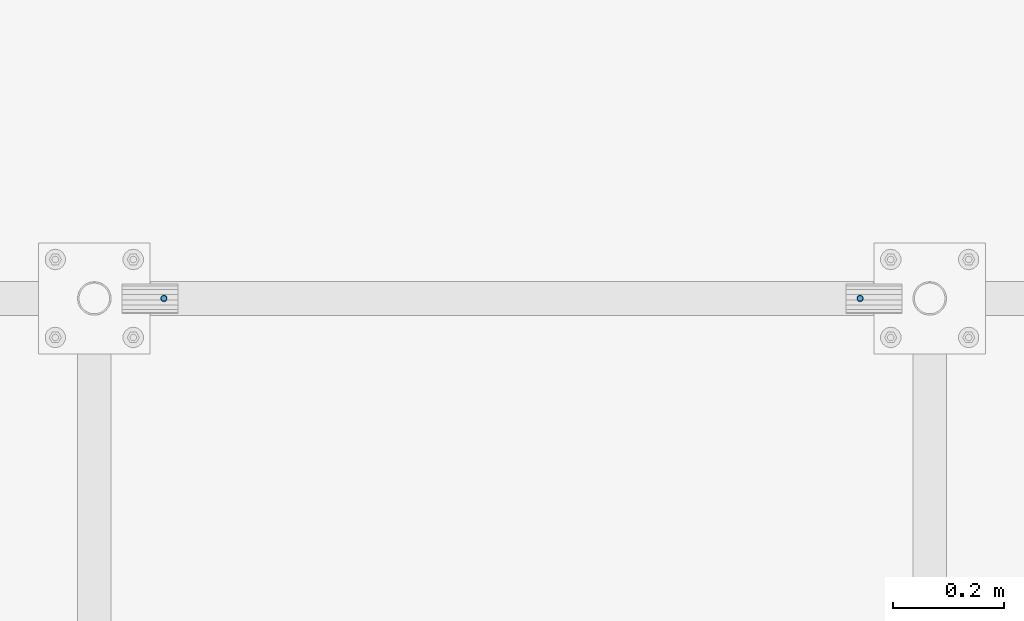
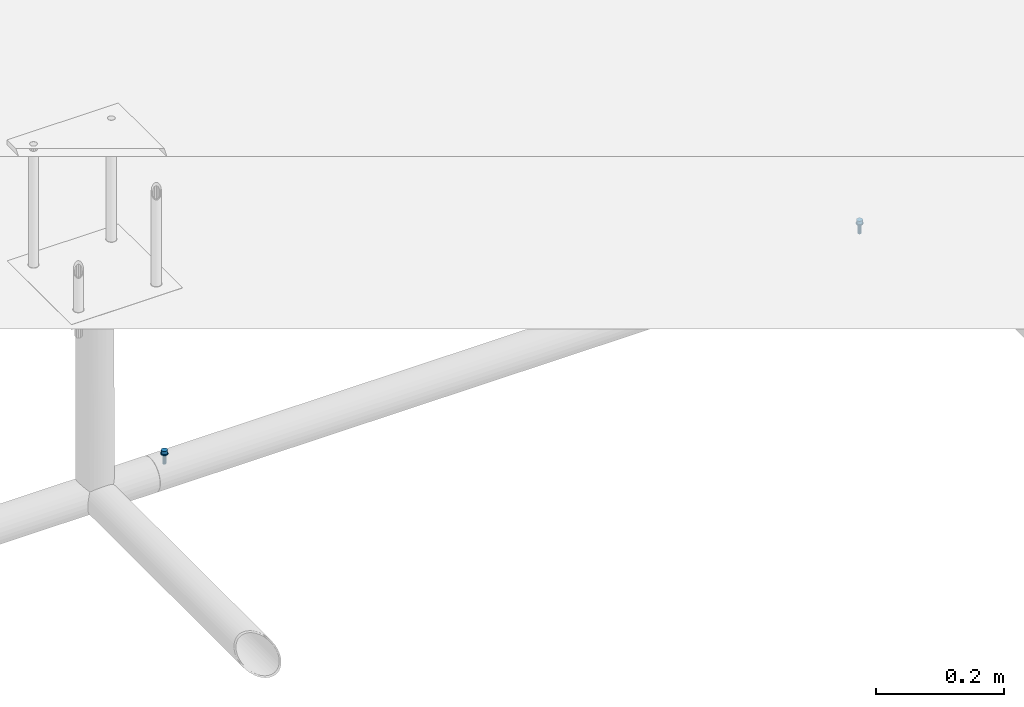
# One storey, part 12 of 30: 2 mechanical fasteners.
"""IFC2X3 building model written with IfcOpenShell, lengths in millimetres."""

from ifc_helpers import new_model, entity, si_unit, converted_unit, origin_with_axes, place, context, project, spatial, faceted_brep, element, save


model = new_model("IFC2X3")

# Units and contexts
model_context = context("Model", 3, precision=1e-09, world=origin_with_axes())
ifc_project = project(units=[si_unit("LENGTHUNIT", "METRE", prefix="MILLI"), si_unit("AREAUNIT", "SQUARE_METRE"), si_unit("VOLUMEUNIT", "CUBIC_METRE"), converted_unit("PLANEANGLEUNIT", "DEGREE", entity("IfcPlaneAngleMeasure", 0.01745329), si_unit("PLANEANGLEUNIT", "RADIAN"), dimensions=[0, 0, 0, 0, 0, 0, 0])], contexts=[model_context])

# Site, building, storey
site_placement = place(None, origin_with_axes())
site = spatial("IfcSite", under=ifc_project, at=site_placement, Name="M?nsinger Stra?e, 81477 M?nchen", CompositionType="ELEMENT")
building_placement = place(site_placement, origin_with_axes())
building = spatial("IfcBuilding", under=site, at=building_placement, Name="Struktur 1", CompositionType="ELEMENT")
storey_placement = place(building_placement, origin_with_axes())
storey = spatial("IfcBuildingStorey", under=building, at=storey_placement, Name="Default Storey", CompositionType="ELEMENT", Elevation=0.0)

# Mechanical fasteners
mechanical_fastener_1_placement = place(None, origin_with_axes())
element("IfcMechanicalFastener", 1, at=mechanical_fastener_1_placement, inside=storey, ObjectType="-", NominalDiameter=6.0, NominalLength=20.0, context=model_context, shape_type="Brep", body=[
    faceted_brep([(6025.315117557, 4491.2632594, 6141.75), (6025.315117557, 4491.2632594, 6140.15), (6025.430405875, 4490.092717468, 6140.15), (6025.430405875, 4490.092717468, 6141.75), (6025.771840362, 4488.967158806, 6140.15), (6025.771840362, 4488.967158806, 6141.75), (6026.326299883, 4487.929838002, 6140.15), (6026.326299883, 4487.929838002, 6141.75), (6027.07247687, 4487.020618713, 6140.15), (6027.07247687, 4487.020618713, 6141.75), (6027.981696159, 4486.274441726, 6140.15), (6027.981696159, 4486.274441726, 6141.75), (6029.019016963, 4485.719982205, 6140.15), (6029.019016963, 4485.719982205, 6141.75), (6030.144575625, 4485.378547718, 6140.15), (6030.144575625, 4485.378547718, 6141.75), (6031.315117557, 4485.2632594, 6140.15), (6031.315117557, 4485.2632594, 6141.75), (6032.485659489, 4485.378547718, 6140.15), (6032.485659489, 4485.378547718, 6141.75), (6033.611218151, 4485.719982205, 6140.15), (6033.611218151, 4485.719982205, 6141.75), (6034.648538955, 4486.274441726, 6140.15), (6034.648538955, 4486.274441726, 6141.75), (6035.557758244, 4487.020618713, 6140.15), (6035.557758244, 4487.020618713, 6141.75), (6036.303935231, 4487.929838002, 6140.15), (6036.303935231, 4487.929838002, 6141.75), (6036.858394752, 4488.967158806, 6140.15), (6036.858394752, 4488.967158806, 6141.75), (6037.199829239, 4490.092717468, 6140.15), (6037.199829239, 4490.092717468, 6141.75), (6037.315117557, 4491.2632594, 6140.15), (6037.315117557, 4491.2632594, 6141.75), (6037.199829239, 4492.433801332, 6140.15), (6037.199829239, 4492.433801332, 6141.75), (6036.858394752, 4493.559359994, 6140.15), (6036.858394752, 4493.559359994, 6141.75), (6036.303935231, 4494.596680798, 6140.15), (6036.303935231, 4494.596680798, 6141.75), (6035.557758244, 4495.505900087, 6140.15), (6035.557758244, 4495.505900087, 6141.75), (6034.648538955, 4496.252077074, 6140.15), (6034.648538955, 4496.252077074, 6141.75), (6033.611218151, 4496.806536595, 6140.15), (6033.611218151, 4496.806536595, 6141.75), (6032.485659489, 4497.147971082, 6140.15), (6032.485659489, 4497.147971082, 6141.75), (6031.315117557, 4497.2632594, 6140.15), (6031.315117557, 4497.2632594, 6141.75), (6030.144575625, 4497.147971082, 6140.15), (6030.144575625, 4497.147971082, 6141.75), (6029.019016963, 4496.806536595, 6140.15), (6029.019016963, 4496.806536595, 6141.75), (6027.981696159, 4496.252077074, 6140.15), (6027.981696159, 4496.252077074, 6141.75), (6027.07247687, 4495.505900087, 6140.15), (6027.07247687, 4495.505900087, 6141.75), (6026.326299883, 4494.596680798, 6140.15), (6026.326299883, 4494.596680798, 6141.75), (6025.771840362, 4493.559359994, 6140.15), (6025.771840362, 4493.559359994, 6141.75), (6025.430405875, 4492.433801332, 6140.15), (6025.430405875, 4492.433801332, 6141.75)], [[[0, 1, 2, 3]], [[3, 2, 4, 5]], [[5, 4, 6, 7]], [[7, 6, 8, 9]], [[9, 8, 10, 11]], [[11, 10, 12, 13]], [[13, 12, 14, 15]], [[15, 14, 16, 17]], [[17, 16, 18, 19]], [[19, 18, 20, 21]], [[21, 20, 22, 23]], [[23, 22, 24, 25]], [[25, 24, 26, 27]], [[27, 26, 28, 29]], [[29, 28, 30, 31]], [[31, 30, 32, 33]], [[33, 32, 34, 35]], [[35, 34, 36, 37]], [[37, 36, 38, 39]], [[39, 38, 40, 41]], [[41, 40, 42, 43]], [[43, 42, 44, 45]], [[45, 44, 46, 47]], [[47, 46, 48, 49]], [[49, 48, 50, 51]], [[51, 50, 52, 53]], [[53, 52, 54, 55]], [[55, 54, 56, 57]], [[57, 56, 58, 59]], [[59, 58, 60, 61]], [[61, 60, 62, 63]], [[63, 62, 1, 0]], [[0, 3, 5, 7, 9, 11, 13, 15, 17, 19, 21, 23, 25, 27, 29, 31, 33, 35, 37, 39, 41, 43, 45, 47, 49, 51, 53, 55, 57, 59, 61, 63]], [[1, 62, 60, 58, 56, 54, 52, 50, 48, 46, 44, 42, 40, 38, 36, 34, 32, 30, 28, 26, 24, 22, 20, 18, 16, 14, 12, 10, 8, 6, 4, 2]]]),
    faceted_brep([(6026.315117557, 4491.2632594, 6147.75), (6026.315117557, 4491.2632594, 6141.75), (6026.411191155, 4490.28780779, 6141.75), (6026.411191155, 4490.28780779, 6147.75), (6026.695719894, 4489.349842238, 6141.75), (6026.695719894, 4489.349842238, 6147.75), (6027.157769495, 4488.485408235, 6141.75), (6027.157769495, 4488.485408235, 6147.75), (6027.779583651, 4487.727725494, 6141.75), (6027.779583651, 4487.727725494, 6147.75), (6028.537266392, 4487.105911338, 6141.75), (6028.537266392, 4487.105911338, 6147.75), (6029.401700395, 4486.643861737, 6141.75), (6029.401700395, 4486.643861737, 6147.75), (6030.339665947, 4486.359332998, 6141.75), (6030.339665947, 4486.359332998, 6147.75), (6031.315117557, 4486.2632594, 6141.75), (6031.315117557, 4486.2632594, 6147.75), (6032.290569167, 4486.359332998, 6141.75), (6032.290569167, 4486.359332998, 6147.75), (6033.228534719, 4486.643861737, 6141.75), (6033.228534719, 4486.643861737, 6147.75), (6034.092968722, 4487.105911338, 6141.75), (6034.092968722, 4487.105911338, 6147.75), (6034.850651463, 4487.727725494, 6141.75), (6034.850651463, 4487.727725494, 6147.75), (6035.472465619, 4488.485408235, 6141.75), (6035.472465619, 4488.485408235, 6147.75), (6035.93451522, 4489.349842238, 6141.75), (6035.93451522, 4489.349842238, 6147.75), (6036.219043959, 4490.28780779, 6141.75), (6036.219043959, 4490.28780779, 6147.75), (6036.315117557, 4491.2632594, 6141.75), (6036.315117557, 4491.2632594, 6147.75), (6036.219043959, 4492.23871101, 6141.75), (6036.219043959, 4492.23871101, 6147.75), (6035.93451522, 4493.176676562, 6141.75), (6035.93451522, 4493.176676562, 6147.75), (6035.472465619, 4494.041110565, 6141.75), (6035.472465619, 4494.041110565, 6147.75), (6034.850651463, 4494.798793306, 6141.75), (6034.850651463, 4494.798793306, 6147.75), (6034.092968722, 4495.420607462, 6141.75), (6034.092968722, 4495.420607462, 6147.75), (6033.228534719, 4495.882657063, 6141.75), (6033.228534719, 4495.882657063, 6147.75), (6032.290569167, 4496.167185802, 6141.75), (6032.290569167, 4496.167185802, 6147.75), (6031.315117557, 4496.2632594, 6141.75), (6031.315117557, 4496.2632594, 6147.75), (6030.339665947, 4496.167185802, 6141.75), (6030.339665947, 4496.167185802, 6147.75), (6029.401700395, 4495.882657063, 6141.75), (6029.401700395, 4495.882657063, 6147.75), (6028.537266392, 4495.420607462, 6141.75), (6028.537266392, 4495.420607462, 6147.75), (6027.779583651, 4494.798793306, 6141.75), (6027.779583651, 4494.798793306, 6147.75), (6027.157769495, 4494.041110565, 6141.75), (6027.157769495, 4494.041110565, 6147.75), (6026.695719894, 4493.176676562, 6141.75), (6026.695719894, 4493.176676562, 6147.75), (6026.411191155, 4492.23871101, 6141.75), (6026.411191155, 4492.23871101, 6147.75)], [[[0, 1, 2, 3]], [[3, 2, 4, 5]], [[5, 4, 6, 7]], [[7, 6, 8, 9]], [[9, 8, 10, 11]], [[11, 10, 12, 13]], [[13, 12, 14, 15]], [[15, 14, 16, 17]], [[17, 16, 18, 19]], [[19, 18, 20, 21]], [[21, 20, 22, 23]], [[23, 22, 24, 25]], [[25, 24, 26, 27]], [[27, 26, 28, 29]], [[29, 28, 30, 31]], [[31, 30, 32, 33]], [[33, 32, 34, 35]], [[35, 34, 36, 37]], [[37, 36, 38, 39]], [[39, 38, 40, 41]], [[41, 40, 42, 43]], [[43, 42, 44, 45]], [[45, 44, 46, 47]], [[47, 46, 48, 49]], [[49, 48, 50, 51]], [[51, 50, 52, 53]], [[53, 52, 54, 55]], [[55, 54, 56, 57]], [[57, 56, 58, 59]], [[59, 58, 60, 61]], [[61, 60, 62, 63]], [[63, 62, 1, 0]], [[0, 3, 5, 7, 9, 11, 13, 15, 17, 19, 21, 23, 25, 27, 29, 31, 33, 35, 37, 39, 41, 43, 45, 47, 49, 51, 53, 55, 57, 59, 61, 63]], [[1, 62, 60, 58, 56, 54, 52, 50, 48, 46, 44, 42, 40, 38, 36, 34, 32, 30, 28, 26, 24, 22, 20, 18, 16, 14, 12, 10, 8, 6, 4, 2]]]),
    faceted_brep([(6028.315117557, 4491.2632594, 6140.15), (6028.315117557, 4491.2632594, 6130.585197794), (6028.543478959, 4490.115209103, 6130.585197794), (6028.543478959, 4490.115209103, 6140.15), (6029.193797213, 4489.141939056, 6130.585197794), (6029.193797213, 4489.141939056, 6140.15), (6030.16706726, 4488.491620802, 6130.585197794), (6030.16706726, 4488.491620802, 6140.15), (6031.315117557, 4488.2632594, 6130.585197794), (6031.315117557, 4488.2632594, 6140.15), (6032.463167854, 4488.491620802, 6130.585197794), (6032.463167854, 4488.491620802, 6140.15), (6033.436437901, 4489.141939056, 6130.585197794), (6033.436437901, 4489.141939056, 6140.15), (6034.086756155, 4490.115209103, 6130.585197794), (6034.086756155, 4490.115209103, 6140.15), (6034.315117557, 4491.2632594, 6130.585197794), (6034.315117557, 4491.2632594, 6140.15), (6034.086756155, 4492.411309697, 6130.585197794), (6034.086756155, 4492.411309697, 6140.15), (6033.436437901, 4493.384579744, 6130.585197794), (6033.436437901, 4493.384579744, 6140.15), (6032.463167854, 4494.034897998, 6130.585197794), (6032.463167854, 4494.034897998, 6140.15), (6031.315117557, 4494.2632594, 6130.585197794), (6031.315117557, 4494.2632594, 6140.15), (6030.16706726, 4494.034897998, 6130.585197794), (6030.16706726, 4494.034897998, 6140.15), (6029.193797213, 4493.384579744, 6130.585197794), (6029.193797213, 4493.384579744, 6140.15), (6028.543478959, 4492.411309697, 6130.585197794), (6028.543478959, 4492.411309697, 6140.15)], [[[0, 1, 2, 3]], [[3, 2, 4, 5]], [[5, 4, 6, 7]], [[7, 6, 8, 9]], [[9, 8, 10, 11]], [[11, 10, 12, 13]], [[13, 12, 14, 15]], [[15, 14, 16, 17]], [[17, 16, 18, 19]], [[19, 18, 20, 21]], [[21, 20, 22, 23]], [[23, 22, 24, 25]], [[25, 24, 26, 27]], [[27, 26, 28, 29]], [[29, 28, 30, 31]], [[31, 30, 1, 0]], [[0, 3, 5, 7, 9, 11, 13, 15, 17, 19, 21, 23, 25, 27, 29, 31]], [[1, 30, 28, 26, 24, 22, 20, 18, 16, 14, 12, 10, 8, 6, 4, 2]]]),
    faceted_brep([(6028.315117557, 4491.2632594, 6130.585197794), (6028.315117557, 4491.2632594, 6121.75), (6028.543478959, 4490.115209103, 6121.75), (6028.543478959, 4490.115209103, 6130.585197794), (6029.193797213, 4489.141939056, 6121.75), (6029.193797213, 4489.141939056, 6130.585197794), (6030.16706726, 4488.491620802, 6121.75), (6030.16706726, 4488.491620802, 6130.585197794), (6031.315117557, 4488.2632594, 6121.75), (6031.315117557, 4488.2632594, 6130.585197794), (6032.463167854, 4488.491620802, 6121.75), (6032.463167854, 4488.491620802, 6130.585197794), (6033.436437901, 4489.141939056, 6121.75), (6033.436437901, 4489.141939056, 6130.585197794), (6034.086756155, 4490.115209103, 6121.75), (6034.086756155, 4490.115209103, 6130.585197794), (6034.315117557, 4491.2632594, 6121.75), (6034.315117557, 4491.2632594, 6130.585197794), (6034.086756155, 4492.411309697, 6121.75), (6034.086756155, 4492.411309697, 6130.585197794), (6033.436437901, 4493.384579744, 6121.75), (6033.436437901, 4493.384579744, 6130.585197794), (6032.463167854, 4494.034897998, 6121.75), (6032.463167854, 4494.034897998, 6130.585197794), (6031.315117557, 4494.2632594, 6121.75), (6031.315117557, 4494.2632594, 6130.585197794), (6030.16706726, 4494.034897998, 6121.75), (6030.16706726, 4494.034897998, 6130.585197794), (6029.193797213, 4493.384579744, 6121.75), (6029.193797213, 4493.384579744, 6130.585197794), (6028.543478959, 4492.411309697, 6121.75), (6028.543478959, 4492.411309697, 6130.585197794)], [[[0, 1, 2, 3]], [[3, 2, 4, 5]], [[5, 4, 6, 7]], [[7, 6, 8, 9]], [[9, 8, 10, 11]], [[11, 10, 12, 13]], [[13, 12, 14, 15]], [[15, 14, 16, 17]], [[17, 16, 18, 19]], [[19, 18, 20, 21]], [[21, 20, 22, 23]], [[23, 22, 24, 25]], [[25, 24, 26, 27]], [[27, 26, 28, 29]], [[29, 28, 30, 31]], [[31, 30, 1, 0]], [[0, 3, 5, 7, 9, 11, 13, 15, 17, 19, 21, 23, 25, 27, 29, 31]], [[1, 30, 28, 26, 24, 22, 20, 18, 16, 14, 12, 10, 8, 6, 4, 2]]]),
])
mechanical_fastener_2_placement = place(None, origin_with_axes())
element("IfcMechanicalFastener", 2, at=mechanical_fastener_2_placement, inside=storey, ObjectType="-", NominalDiameter=6.0, NominalLength=20.0, context=model_context, shape_type="Brep", body=[
    faceted_brep([(7287.315117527, 4491.2632594, 6140.15), (7287.315117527, 4491.2632594, 6141.75), (7287.19982921, 4490.092717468, 6141.75), (7287.19982921, 4490.092717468, 6140.15), (7286.858394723, 4488.967158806, 6141.75), (7286.858394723, 4488.967158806, 6140.15), (7286.303935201, 4487.929838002, 6141.75), (7286.303935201, 4487.929838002, 6140.15), (7285.557758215, 4487.020618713, 6141.75), (7285.557758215, 4487.020618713, 6140.15), (7284.648538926, 4486.274441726, 6141.75), (7284.648538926, 4486.274441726, 6140.15), (7283.611218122, 4485.719982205, 6141.75), (7283.611218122, 4485.719982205, 6140.15), (7282.48565946, 4485.378547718, 6141.75), (7282.48565946, 4485.378547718, 6140.15), (7281.315117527, 4485.2632594, 6141.75), (7281.315117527, 4485.2632594, 6140.15), (7280.144575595, 4485.378547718, 6141.75), (7280.144575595, 4485.378547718, 6140.15), (7279.019016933, 4485.719982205, 6141.75), (7279.019016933, 4485.719982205, 6140.15), (7277.981696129, 4486.274441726, 6141.75), (7277.981696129, 4486.274441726, 6140.15), (7277.07247684, 4487.020618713, 6141.75), (7277.07247684, 4487.020618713, 6140.15), (7276.326299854, 4487.929838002, 6141.75), (7276.326299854, 4487.929838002, 6140.15), (7275.771840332, 4488.967158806, 6141.75), (7275.771840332, 4488.967158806, 6140.15), (7275.430405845, 4490.092717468, 6141.75), (7275.430405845, 4490.092717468, 6140.15), (7275.315117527, 4491.2632594, 6141.75), (7275.315117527, 4491.2632594, 6140.15), (7275.430405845, 4492.433801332, 6141.75), (7275.430405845, 4492.433801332, 6140.15), (7275.771840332, 4493.559359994, 6141.75), (7275.771840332, 4493.559359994, 6140.15), (7276.326299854, 4494.596680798, 6141.75), (7276.326299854, 4494.596680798, 6140.15), (7277.07247684, 4495.505900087, 6141.75), (7277.07247684, 4495.505900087, 6140.15), (7277.981696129, 4496.252077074, 6141.75), (7277.981696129, 4496.252077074, 6140.15), (7279.019016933, 4496.806536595, 6141.75), (7279.019016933, 4496.806536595, 6140.15), (7280.144575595, 4497.147971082, 6141.75), (7280.144575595, 4497.147971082, 6140.15), (7281.315117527, 4497.2632594, 6141.75), (7281.315117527, 4497.2632594, 6140.15), (7282.48565946, 4497.147971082, 6141.75), (7282.48565946, 4497.147971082, 6140.15), (7283.611218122, 4496.806536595, 6141.75), (7283.611218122, 4496.806536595, 6140.15), (7284.648538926, 4496.252077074, 6141.75), (7284.648538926, 4496.252077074, 6140.15), (7285.557758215, 4495.505900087, 6141.75), (7285.557758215, 4495.505900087, 6140.15), (7286.303935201, 4494.596680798, 6141.75), (7286.303935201, 4494.596680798, 6140.15), (7286.858394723, 4493.559359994, 6141.75), (7286.858394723, 4493.559359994, 6140.15), (7287.19982921, 4492.433801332, 6141.75), (7287.19982921, 4492.433801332, 6140.15)], [[[0, 1, 2, 3]], [[3, 2, 4, 5]], [[5, 4, 6, 7]], [[7, 6, 8, 9]], [[9, 8, 10, 11]], [[11, 10, 12, 13]], [[13, 12, 14, 15]], [[15, 14, 16, 17]], [[17, 16, 18, 19]], [[19, 18, 20, 21]], [[21, 20, 22, 23]], [[23, 22, 24, 25]], [[25, 24, 26, 27]], [[27, 26, 28, 29]], [[29, 28, 30, 31]], [[31, 30, 32, 33]], [[33, 32, 34, 35]], [[35, 34, 36, 37]], [[37, 36, 38, 39]], [[39, 38, 40, 41]], [[41, 40, 42, 43]], [[43, 42, 44, 45]], [[45, 44, 46, 47]], [[47, 46, 48, 49]], [[49, 48, 50, 51]], [[51, 50, 52, 53]], [[53, 52, 54, 55]], [[55, 54, 56, 57]], [[57, 56, 58, 59]], [[59, 58, 60, 61]], [[61, 60, 62, 63]], [[63, 62, 1, 0]], [[2, 1, 62, 60, 58, 56, 54, 52, 50, 48, 46, 44, 42, 40, 38, 36, 34, 32, 30, 28, 26, 24, 22, 20, 18, 16, 14, 12, 10, 8, 6, 4]], [[63, 0, 3, 5, 7, 9, 11, 13, 15, 17, 19, 21, 23, 25, 27, 29, 31, 33, 35, 37, 39, 41, 43, 45, 47, 49, 51, 53, 55, 57, 59, 61]]]),
    faceted_brep([(7286.315117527, 4491.2632594, 6141.75), (7286.315117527, 4491.2632594, 6147.75), (7286.219043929, 4490.28780779, 6147.75), (7286.219043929, 4490.28780779, 6141.75), (7285.93451519, 4489.349842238, 6147.75), (7285.93451519, 4489.349842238, 6141.75), (7285.472465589, 4488.485408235, 6147.75), (7285.472465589, 4488.485408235, 6141.75), (7284.850651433, 4487.727725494, 6147.75), (7284.850651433, 4487.727725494, 6141.75), (7284.092968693, 4487.105911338, 6147.75), (7284.092968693, 4487.105911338, 6141.75), (7283.228534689, 4486.643861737, 6147.75), (7283.228534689, 4486.643861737, 6141.75), (7282.290569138, 4486.359332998, 6147.75), (7282.290569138, 4486.359332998, 6141.75), (7281.315117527, 4486.2632594, 6147.75), (7281.315117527, 4486.2632594, 6141.75), (7280.339665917, 4486.359332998, 6147.75), (7280.339665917, 4486.359332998, 6141.75), (7279.401700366, 4486.643861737, 6147.75), (7279.401700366, 4486.643861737, 6141.75), (7278.537266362, 4487.105911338, 6147.75), (7278.537266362, 4487.105911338, 6141.75), (7277.779583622, 4487.727725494, 6147.75), (7277.779583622, 4487.727725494, 6141.75), (7277.157769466, 4488.485408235, 6147.75), (7277.157769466, 4488.485408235, 6141.75), (7276.695719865, 4489.349842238, 6147.75), (7276.695719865, 4489.349842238, 6141.75), (7276.411191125, 4490.28780779, 6147.75), (7276.411191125, 4490.28780779, 6141.75), (7276.315117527, 4491.2632594, 6147.75), (7276.315117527, 4491.2632594, 6141.75), (7276.411191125, 4492.23871101, 6147.75), (7276.411191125, 4492.23871101, 6141.75), (7276.695719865, 4493.176676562, 6147.75), (7276.695719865, 4493.176676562, 6141.75), (7277.157769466, 4494.041110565, 6147.75), (7277.157769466, 4494.041110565, 6141.75), (7277.779583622, 4494.798793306, 6147.75), (7277.779583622, 4494.798793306, 6141.75), (7278.537266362, 4495.420607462, 6147.75), (7278.537266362, 4495.420607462, 6141.75), (7279.401700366, 4495.882657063, 6147.75), (7279.401700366, 4495.882657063, 6141.75), (7280.339665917, 4496.167185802, 6147.75), (7280.339665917, 4496.167185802, 6141.75), (7281.315117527, 4496.2632594, 6147.75), (7281.315117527, 4496.2632594, 6141.75), (7282.290569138, 4496.167185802, 6147.75), (7282.290569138, 4496.167185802, 6141.75), (7283.228534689, 4495.882657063, 6147.75), (7283.228534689, 4495.882657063, 6141.75), (7284.092968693, 4495.420607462, 6147.75), (7284.092968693, 4495.420607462, 6141.75), (7284.850651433, 4494.798793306, 6147.75), (7284.850651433, 4494.798793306, 6141.75), (7285.472465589, 4494.041110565, 6147.75), (7285.472465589, 4494.041110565, 6141.75), (7285.93451519, 4493.176676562, 6147.75), (7285.93451519, 4493.176676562, 6141.75), (7286.219043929, 4492.23871101, 6147.75), (7286.219043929, 4492.23871101, 6141.75)], [[[0, 1, 2, 3]], [[3, 2, 4, 5]], [[5, 4, 6, 7]], [[7, 6, 8, 9]], [[9, 8, 10, 11]], [[11, 10, 12, 13]], [[13, 12, 14, 15]], [[15, 14, 16, 17]], [[17, 16, 18, 19]], [[19, 18, 20, 21]], [[21, 20, 22, 23]], [[23, 22, 24, 25]], [[25, 24, 26, 27]], [[27, 26, 28, 29]], [[29, 28, 30, 31]], [[31, 30, 32, 33]], [[33, 32, 34, 35]], [[35, 34, 36, 37]], [[37, 36, 38, 39]], [[39, 38, 40, 41]], [[41, 40, 42, 43]], [[43, 42, 44, 45]], [[45, 44, 46, 47]], [[47, 46, 48, 49]], [[49, 48, 50, 51]], [[51, 50, 52, 53]], [[53, 52, 54, 55]], [[55, 54, 56, 57]], [[57, 56, 58, 59]], [[59, 58, 60, 61]], [[61, 60, 62, 63]], [[63, 62, 1, 0]], [[2, 1, 62, 60, 58, 56, 54, 52, 50, 48, 46, 44, 42, 40, 38, 36, 34, 32, 30, 28, 26, 24, 22, 20, 18, 16, 14, 12, 10, 8, 6, 4]], [[63, 0, 3, 5, 7, 9, 11, 13, 15, 17, 19, 21, 23, 25, 27, 29, 31, 33, 35, 37, 39, 41, 43, 45, 47, 49, 51, 53, 55, 57, 59, 61]]]),
    faceted_brep([(7284.315117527, 4491.2632594, 6130.585197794), (7284.315117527, 4491.2632594, 6140.15), (7284.086756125, 4490.115209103, 6140.15), (7284.086756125, 4490.115209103, 6130.585197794), (7283.436437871, 4489.141939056, 6140.15), (7283.436437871, 4489.141939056, 6130.585197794), (7282.463167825, 4488.491620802, 6140.15), (7282.463167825, 4488.491620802, 6130.585197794), (7281.315117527, 4488.2632594, 6140.15), (7281.315117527, 4488.2632594, 6130.585197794), (7280.16706723, 4488.491620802, 6140.15), (7280.16706723, 4488.491620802, 6130.585197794), (7279.193797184, 4489.141939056, 6140.15), (7279.193797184, 4489.141939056, 6130.585197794), (7278.54347893, 4490.115209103, 6140.15), (7278.54347893, 4490.115209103, 6130.585197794), (7278.315117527, 4491.2632594, 6140.15), (7278.315117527, 4491.2632594, 6130.585197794), (7278.54347893, 4492.411309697, 6140.15), (7278.54347893, 4492.411309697, 6130.585197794), (7279.193797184, 4493.384579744, 6140.15), (7279.193797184, 4493.384579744, 6130.585197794), (7280.16706723, 4494.034897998, 6140.15), (7280.16706723, 4494.034897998, 6130.585197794), (7281.315117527, 4494.2632594, 6140.15), (7281.315117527, 4494.2632594, 6130.585197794), (7282.463167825, 4494.034897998, 6140.15), (7282.463167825, 4494.034897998, 6130.585197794), (7283.436437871, 4493.384579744, 6140.15), (7283.436437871, 4493.384579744, 6130.585197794), (7284.086756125, 4492.411309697, 6140.15), (7284.086756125, 4492.411309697, 6130.585197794)], [[[0, 1, 2, 3]], [[3, 2, 4, 5]], [[5, 4, 6, 7]], [[7, 6, 8, 9]], [[9, 8, 10, 11]], [[11, 10, 12, 13]], [[13, 12, 14, 15]], [[15, 14, 16, 17]], [[17, 16, 18, 19]], [[19, 18, 20, 21]], [[21, 20, 22, 23]], [[23, 22, 24, 25]], [[25, 24, 26, 27]], [[27, 26, 28, 29]], [[29, 28, 30, 31]], [[31, 30, 1, 0]], [[2, 1, 30, 28, 26, 24, 22, 20, 18, 16, 14, 12, 10, 8, 6, 4]], [[31, 0, 3, 5, 7, 9, 11, 13, 15, 17, 19, 21, 23, 25, 27, 29]]]),
    faceted_brep([(7284.315117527, 4491.2632594, 6121.75), (7284.315117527, 4491.2632594, 6130.585197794), (7284.086756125, 4490.115209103, 6130.585197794), (7284.086756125, 4490.115209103, 6121.75), (7283.436437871, 4489.141939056, 6130.585197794), (7283.436437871, 4489.141939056, 6121.75), (7282.463167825, 4488.491620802, 6130.585197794), (7282.463167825, 4488.491620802, 6121.75), (7281.315117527, 4488.2632594, 6130.585197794), (7281.315117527, 4488.2632594, 6121.75), (7280.16706723, 4488.491620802, 6130.585197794), (7280.16706723, 4488.491620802, 6121.75), (7279.193797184, 4489.141939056, 6130.585197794), (7279.193797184, 4489.141939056, 6121.75), (7278.54347893, 4490.115209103, 6130.585197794), (7278.54347893, 4490.115209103, 6121.75), (7278.315117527, 4491.2632594, 6130.585197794), (7278.315117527, 4491.2632594, 6121.75), (7278.54347893, 4492.411309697, 6130.585197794), (7278.54347893, 4492.411309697, 6121.75), (7279.193797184, 4493.384579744, 6130.585197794), (7279.193797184, 4493.384579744, 6121.75), (7280.16706723, 4494.034897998, 6130.585197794), (7280.16706723, 4494.034897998, 6121.75), (7281.315117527, 4494.2632594, 6130.585197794), (7281.315117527, 4494.2632594, 6121.75), (7282.463167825, 4494.034897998, 6130.585197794), (7282.463167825, 4494.034897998, 6121.75), (7283.436437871, 4493.384579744, 6130.585197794), (7283.436437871, 4493.384579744, 6121.75), (7284.086756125, 4492.411309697, 6130.585197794), (7284.086756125, 4492.411309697, 6121.75)], [[[0, 1, 2, 3]], [[3, 2, 4, 5]], [[5, 4, 6, 7]], [[7, 6, 8, 9]], [[9, 8, 10, 11]], [[11, 10, 12, 13]], [[13, 12, 14, 15]], [[15, 14, 16, 17]], [[17, 16, 18, 19]], [[19, 18, 20, 21]], [[21, 20, 22, 23]], [[23, 22, 24, 25]], [[25, 24, 26, 27]], [[27, 26, 28, 29]], [[29, 28, 30, 31]], [[31, 30, 1, 0]], [[2, 1, 30, 28, 26, 24, 22, 20, 18, 16, 14, 12, 10, 8, 6, 4]], [[31, 0, 3, 5, 7, 9, 11, 13, 15, 17, 19, 21, 23, 25, 27, 29]]]),
])

save(model, "model.ifc")
